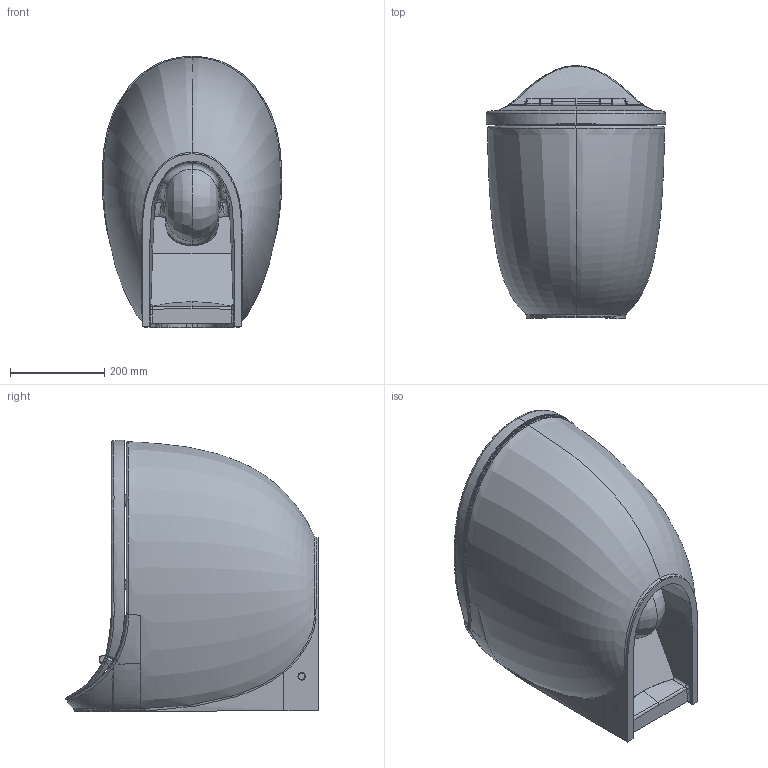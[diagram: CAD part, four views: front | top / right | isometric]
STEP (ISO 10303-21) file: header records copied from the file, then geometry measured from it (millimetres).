
FILE_DESCRIPTION (( 'STEP AP203' ), '1' );
FILE_NAME ('FG350 Model.STEP', '2022-04-01T12:41:27', ( '' ), ( '' ), 'SwSTEP 2.0', 'SolidWorks 2021', '' );
FILE_SCHEMA (( 'CONFIG_CONTROL_DESIGN' ));
Products named in the file (1): FG350 Model
Bounding box: 380.76 x 534.86 x 575.44 mm (x, y, z)
Volume: 36109307.4 mm3; surface area: 2211747.2 mm2
Topology: 32 solids, 37 shells, 2003 faces, 4969 edges, 3079 vertices
Faces by surface type: bspline 951, plane 465, cylinder 385, torus 101, cone 99, sphere 2
Entity records: 268350 total; most frequent: CARTESIAN_POINT 227791, ORIENTED_EDGE 9850, DIRECTION 6489, EDGE_CURVE 4925, VERTEX_POINT 3079, AXIS2_PLACEMENT_3D 2600, EDGE_LOOP 2114, ADVANCED_FACE 2003
